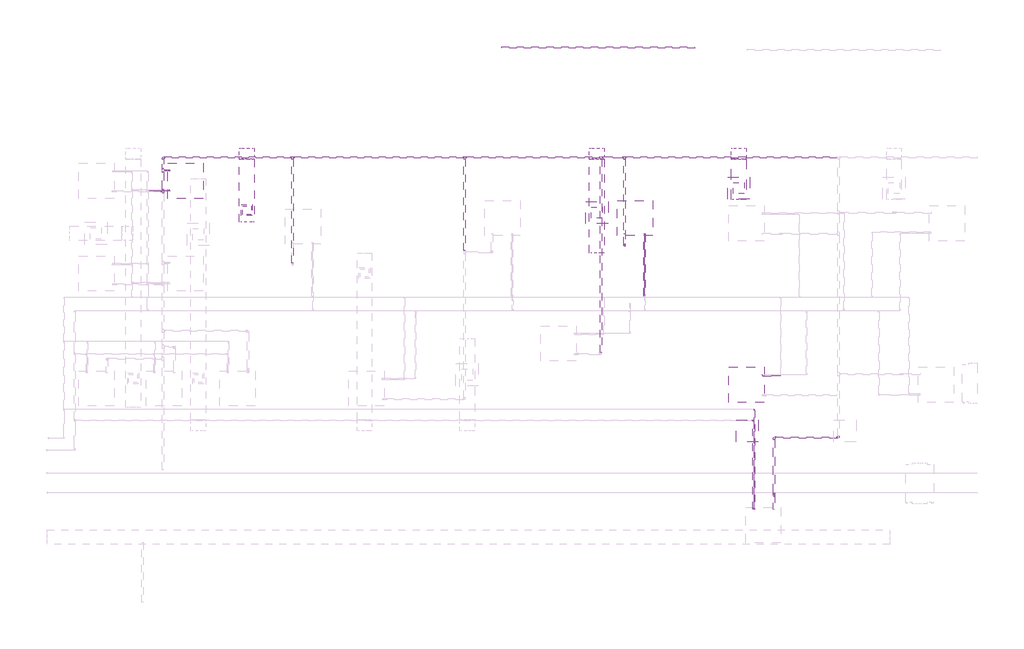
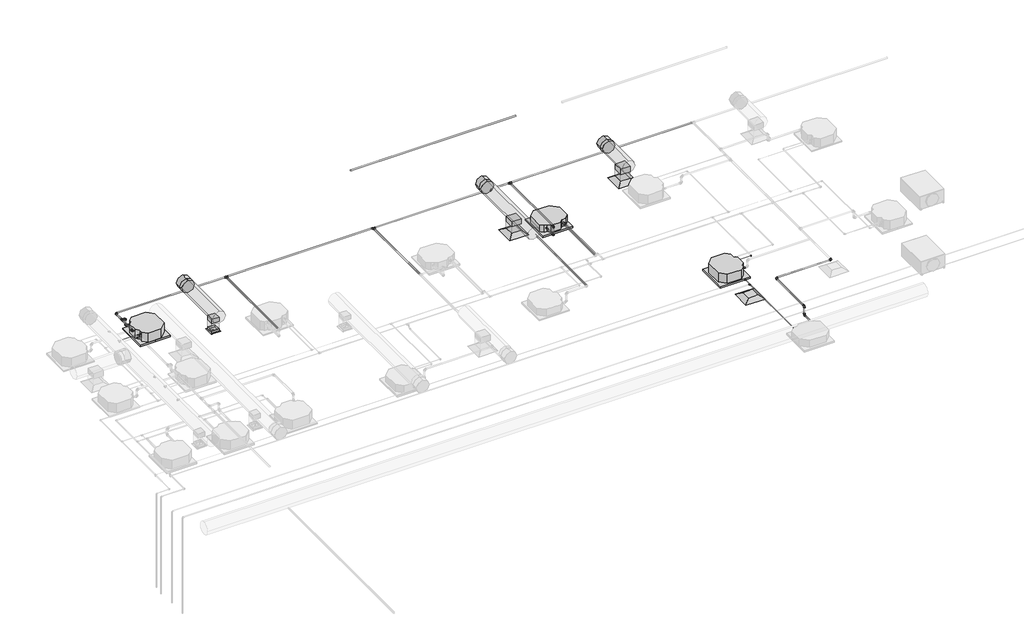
# One storey, part 17 of 22: 27 pipe segments, 26 pipe fittings, 6 duct fittings, 6 duct segments, 4 air terminals, 3 proxies.
"""IFC4 building model written with IfcOpenShell, lengths in millimetres."""

from ifc_helpers import new_model, si_unit, point, frame, frame_2d, origin, place, context, project, spatial, polyline, circle_curve, trimmed, segment, composite_curve, outline, extrude, transform, mapped, element, save
from components import air_terminal_ff221211, sdq3535_a75e83f7, mechanical_equipment_77aa587a, mechanical_equipment_53173f38, duct_fitting_570af4ff, duct_fitting_2eb95573, duct_fitting_95c1ddea, pipe_fitting_144f4440, pipe_fitting_14eb6376, pipe_fitting_6dd44d3f, pipe_fitting_5643bdf7, pipe_fitting_c900cfc2, pipe_fitting_16c020f5, pipe_fitting_501e5992, pipe_fitting_59d1f3e3, pipe_fitting_648138cd, pipe_fitting_58ab9b66

model = new_model("IFC4")

# Units and contexts
model_context = context("Model", 3, world=origin())
ifc_project = project(units=[si_unit("LENGTHUNIT", "METRE", prefix="MILLI")], contexts=[model_context])

# Site, building, storey
site = spatial("IfcSite", under=ifc_project)
building = spatial("IfcBuilding", under=site)
storey = spatial("IfcBuildingStorey", under=building, Name="Nível 2", Elevation=3880.0)

# Air terminals
placement = place(None, origin())
air_terminal_shape = air_terminal_ff221211(model_context)
element("IfcAirTerminal", 1, ObjectType="M_Difusor de retorno : 600 x 600 Face 300 x 300 Conexão", at=placement, inside=storey, context=model_context, shape_type="MappedRepresentation", body=[
    mapped(air_terminal_shape, transform((15810.5271796, 8685.9308948, 6880.0), x_axis=(-1.0, 0.0, 0.0), y_axis=(0.0, -1.0, 0.0), z_axis=(0.0, 0.0, 1.0))),
])
element("IfcAirTerminal", 2, ObjectType="M_Difusor de retorno : 600 x 600 Face 300 x 300 Conexão", at=placement, inside=storey, context=model_context, shape_type="MappedRepresentation", body=[
    mapped(air_terminal_shape, transform((11986.9913685, 8025.0961519, 6880.0), x_axis=(-1.0, 0.0, 0.0), y_axis=(0.0, -1.0, 0.0), z_axis=(0.0, 0.0, 1.0))),
])
element("IfcAirTerminal", 3, ObjectType="M_Difusor de fornecimento : 600 x 600 Face 300 x 300 Conexão", at=placement, inside=storey, context=model_context, shape_type="MappedRepresentation", body=[
    mapped(air_terminal_shape, transform((16036.8087604, 2137.3539749, 6880.0), x_axis=(0.0, 1.0, 0.0), y_axis=(-1.0, 0.0, 0.0), z_axis=(0.0, 0.0, 1.0))),
])
sdq3535_shape = sdq3535_a75e83f7(model_context)
element("IfcAirTerminal", 4, ObjectType="11 - Difusor Quadrado : SDQ3535", at=placement, inside=storey, context=model_context, shape_type="MappedRepresentation", body=[
    mapped(sdq3535_shape, transform((2557.2472646, 8089.1032452, 6880.0), x_axis=(-1.0, 0.0, 0.0), y_axis=(0.0, -1.0, 0.0), z_axis=(0.0, 0.0, 1.0))),
])

# Proxies
mechanical_equipment_shape = mechanical_equipment_77aa587a(model_context)
element("IfcBuildingElementProxy", 5, Name="Midea_VRF_Indoor_4-way Cassette_MI-56(71,80)Q4_DHN1-D (2nd DC) : MI2-71Q4DHN1", ObjectType="Midea_VRF_Indoor_4-way Cassette_MI-56(71,80)Q4_DHN1-D (2nd DC) : MI2-71Q4DHN1", at=placement, inside=storey, context=model_context, shape_type="MappedRepresentation", body=[
    mapped(mechanical_equipment_shape, transform((13012.0385133, 7877.9692139, 6880.0), x_axis=(0.0, -1.0, 0.0), y_axis=(1.0, 0.0, 0.0), z_axis=(0.0, 0.0, 1.0))),
])
mechanical_equipment_2_shape = mechanical_equipment_53173f38(model_context)
element("IfcBuildingElementProxy", 6, Name="Midea_VRF_Indoor_4-way Cassette_MI-90(100,112,140)Q4_DHN1-D (2nd DC) : MI2-140Q4DHN1", ObjectType="Midea_VRF_Indoor_4-way Cassette_MI-90(100,112,140)Q4_DHN1-D (2nd DC) : MI2-140Q4DHN1", at=placement, inside=storey, context=model_context, shape_type="MappedRepresentation", body=[
    mapped(mechanical_equipment_2_shape, transform((16014.3184177, 3382.4868871, 6880.0), x_axis=(1.0, 0.0, 0.0), y_axis=(0.0, 1.0, 0.0), z_axis=(0.0, 0.0, 1.0))),
])
element("IfcBuildingElementProxy", 7, Name="Midea_VRF_Indoor_4-way Cassette_MI-90(100,112,140)Q4_DHN1-D (2nd DC) : MI2-140Q4DHN1", ObjectType="Midea_VRF_Indoor_4-way Cassette_MI-90(100,112,140)Q4_DHN1-D (2nd DC) : MI2-140Q4DHN1", at=placement, inside=storey, context=model_context, shape_type="MappedRepresentation", body=[
    mapped(mechanical_equipment_2_shape, transform((904.1415592, 8880.8653729, 6880.0), x_axis=(-1.0, 0.0, 0.0), y_axis=(0.0, -1.0, 0.0), z_axis=(0.0, 0.0, 1.0))),
])

# Duct fittings
duct_fitting_shape = duct_fitting_570af4ff(model_context)
element("IfcDuctFitting", 8, ObjectType="M_Encaixe de duto retangular : Padrão", at=placement, inside=storey, context=model_context, shape_type="MappedRepresentation", body=[
    mapped(duct_fitting_shape, transform((2557.2472646, 8089.1032452, 7301.0), x_axis=(0.0, 0.0, -1.0), y_axis=(0.0, 1.0, 0.0), z_axis=(1.0, 0.0, 0.0))),
])
duct_fitting_2_shape = duct_fitting_2eb95573(model_context)
element("IfcDuctFitting", 9, ObjectType="M_Encaixe de duto redondo : Padrão", at=placement, inside=storey, context=model_context, shape_type="MappedRepresentation", body=[
    mapped(duct_fitting_2_shape, transform((15810.5271796, 9569.8368648, 7501.0), x_axis=(0.0, -1.0, 0.0), y_axis=(-1.0, 0.0, 0.0), z_axis=(0.0, 0.0, -1.0))),
])
element("IfcDuctFitting", 10, ObjectType="M_Encaixe de duto redondo : Padrão", at=placement, inside=storey, context=model_context, shape_type="MappedRepresentation", body=[
    mapped(duct_fitting_2_shape, transform((11986.9913685, 9569.8368648, 7501.0), x_axis=(0.0, -1.0, 0.0), y_axis=(-1.0, 0.0, 0.0), z_axis=(0.0, 0.0, -1.0))),
])
element("IfcDuctFitting", 11, ObjectType="M_Encaixe de duto redondo : Padrão", at=placement, inside=storey, context=model_context, shape_type="MappedRepresentation", body=[
    mapped(duct_fitting_2_shape, transform((2557.2472646, 9569.8368648, 7501.0), x_axis=(0.0, -1.0, 0.0), y_axis=(-1.0, 0.0, 0.0), z_axis=(0.0, 0.0, -1.0))),
])
duct_fitting_3_shape = duct_fitting_95c1ddea(model_context)
element("IfcDuctFitting", 12, ObjectType="M_Encaixe de duto retangular : Padrão", at=placement, inside=storey, context=model_context, shape_type="MappedRepresentation", body=[
    mapped(duct_fitting_3_shape, transform((15810.5271796, 8685.9308948, 7301.0), x_axis=(0.0, 0.0, -1.0), y_axis=(0.0, 1.0, 0.0), z_axis=(1.0, 0.0, 0.0))),
])
element("IfcDuctFitting", 13, ObjectType="M_Encaixe de duto retangular : Padrão", at=placement, inside=storey, context=model_context, shape_type="MappedRepresentation", body=[
    mapped(duct_fitting_3_shape, transform((11986.9913685, 8025.0961519, 7301.0), x_axis=(0.0, 0.0, -1.0), y_axis=(0.0, 1.0, 0.0), z_axis=(1.0, 0.0, 0.0))),
])

# Duct segments
element("IfcDuctSegment", 14, ObjectType="Torneiras / Raio curto", at=placement, inside=storey, context=model_context, shape_type="SweptSolid", body=[
    extrude(outline(composite_curve([segment(trimmed(circle_curve(frame_2d((7501.0, 15810.5271796)), 200.0), [point((7501.0, 15610.5271796))], [point((7301.0, 15810.5271796))], False, "CARTESIAN"), True, "CONTINUOUS"), segment(trimmed(circle_curve(frame_2d((7501.0, 15810.5271796)), 200.0), [point((7301.0, 15810.5271796))], [point((7501.0, 16010.5271796))], False, "CARTESIAN"), True, "CONTINUOUS"), segment(trimmed(circle_curve(frame_2d((7501.0, 15810.5271796)), 200.0), [point((7501.0, 16010.5271796))], [point((7701.0, 15810.5271796))], False, "CARTESIAN"), True, "CONTINUOUS"), segment(trimmed(circle_curve(frame_2d((7501.0, 15810.5271796)), 200.0), [point((7701.0, 15810.5271796))], [point((7501.0, 15610.5271796))], False, "CARTESIAN"), True, "CONTINUOUS")], self_intersect=False)), frame((0.0, 8369.8368648, 0.0), z_axis=(0.0, 1.0, 0.0), x_axis=(0.0, 0.0, 1.0)), (0.0, 0.0, 1.0), 1098.4),
])
element("IfcDuctSegment", 15, ObjectType="Raios cotovelos / torneiras", at=placement, inside=storey, context=model_context, shape_type="SweptSolid", body=[
    extrude(outline(polyline([(15660.5271796, 8535.9308948), (15660.5271796, 8835.9308948), (15960.5271796, 8835.9308948), (15960.5271796, 8535.9308948), (15660.5271796, 8535.9308948)])), frame((0.0, 0.0, 6981.6), z_axis=(0.0, 0.0, 1.0), x_axis=(1.0, 0.0, 0.0)), (0.0, 0.0, 1.0), 217.8),
])
element("IfcDuctSegment", 16, ObjectType="Torneiras / Raio curto", at=placement, inside=storey, context=model_context, shape_type="SweptSolid", body=[
    extrude(outline(composite_curve([segment(trimmed(circle_curve(frame_2d((7501.0, 11986.9913685)), 200.0), [point((7501.0, 11786.9913685))], [point((7301.0, 11986.9913685))], False, "CARTESIAN"), True, "CONTINUOUS"), segment(trimmed(circle_curve(frame_2d((7501.0, 11986.9913685)), 200.0), [point((7301.0, 11986.9913685))], [point((7501.0, 12186.9913685))], False, "CARTESIAN"), True, "CONTINUOUS"), segment(trimmed(circle_curve(frame_2d((7501.0, 11986.9913685)), 200.0), [point((7501.0, 12186.9913685))], [point((7701.0, 11986.9913685))], False, "CARTESIAN"), True, "CONTINUOUS"), segment(trimmed(circle_curve(frame_2d((7501.0, 11986.9913685)), 200.0), [point((7701.0, 11986.9913685))], [point((7501.0, 11786.9913685))], False, "CARTESIAN"), True, "CONTINUOUS")], self_intersect=False)), frame((0.0, 6937.3539749, 0.0), z_axis=(0.0, 1.0, 0.0), x_axis=(0.0, 0.0, 1.0)), (0.0, 0.0, 1.0), 2530.8828899),
])
element("IfcDuctSegment", 17, ObjectType="Raios cotovelos / torneiras", at=placement, inside=storey, context=model_context, shape_type="SweptSolid", body=[
    extrude(outline(polyline([(11836.9913685, 7875.0961519), (11836.9913685, 8175.0961519), (12136.9913685, 8175.0961519), (12136.9913685, 7875.0961519), (11836.9913685, 7875.0961519)])), frame((0.0, 0.0, 6981.6), z_axis=(0.0, 0.0, 1.0), x_axis=(1.0, 0.0, 0.0)), (0.0, 0.0, 1.0), 217.8),
])
element("IfcDuctSegment", 18, ObjectType="Torneiras / Raio curto", at=placement, inside=storey, context=model_context, shape_type="SweptSolid", body=[
    extrude(outline(composite_curve([segment(trimmed(circle_curve(frame_2d((7501.0, 2557.2472646)), 200.0), [point((7501.0, 2357.2472646))], [point((7301.0, 2557.2472646))], False, "CARTESIAN"), True, "CONTINUOUS"), segment(trimmed(circle_curve(frame_2d((7501.0, 2557.2472646)), 200.0), [point((7301.0, 2557.2472646))], [point((7501.0, 2757.2472646))], False, "CARTESIAN"), True, "CONTINUOUS"), segment(trimmed(circle_curve(frame_2d((7501.0, 2557.2472646)), 200.0), [point((7501.0, 2757.2472646))], [point((7701.0, 2557.2472646))], False, "CARTESIAN"), True, "CONTINUOUS"), segment(trimmed(circle_curve(frame_2d((7501.0, 2557.2472646)), 200.0), [point((7701.0, 2557.2472646))], [point((7501.0, 2357.2472646))], False, "CARTESIAN"), True, "CONTINUOUS")], self_intersect=False)), frame((0.0, 7769.8368648, 0.0), z_axis=(0.0, 1.0, 0.0), x_axis=(0.0, 0.0, 1.0)), (0.0, 0.0, 1.0), 1698.4),
])
element("IfcDuctSegment", 19, ObjectType="Raios cotovelos / torneiras", at=placement, inside=storey, context=model_context, shape_type="SweptSolid", body=[
    extrude(outline(polyline([(2444.7472646, 7976.6032452), (2444.7472646, 8201.6032452), (2669.7472646, 8201.6032452), (2669.7472646, 7976.6032452), (2444.7472646, 7976.6032452)])), frame((0.0, 0.0, 6885.0), z_axis=(0.0, 0.0, 1.0), x_axis=(1.0, 0.0, 0.0)), (0.0, 0.0, 1.0), 314.4),
])

# Pipe fittings
pipe_fitting_shape = pipe_fitting_144f4440(model_context)
element("IfcPipeFitting", 20, ObjectType="Cotovelo - PVC - CW : Padrão", at=placement, inside=storey, context=model_context, shape_type="MappedRepresentation", body=[
    mapped(pipe_fitting_shape, transform((297.3882959, 9508.652743, 7360.6313654), x_axis=(-1.0, 0.0, 0.0), y_axis=(0.0, -1.0, 0.0), z_axis=(0.0, 0.0, 1.0))),
])
element("IfcPipeFitting", 21, ObjectType="Cotovelo - PVC - CW : Padrão", at=placement, inside=storey, context=model_context, shape_type="MappedRepresentation", body=[
    mapped(pipe_fitting_shape, transform((12727.0385133, 7132.9692141, 7360.6313654), x_axis=(0.0, 0.0, 1.0), y_axis=(0.0, 1.0, 0.0), z_axis=(-1.0, 0.0, 0.0))),
])
element("IfcPipeFitting", 22, ObjectType="Cotovelo - PVC - CW : Padrão", at=placement, inside=storey, context=model_context, shape_type="MappedRepresentation", body=[
    mapped(pipe_fitting_shape, transform((408.7418117, 9165.8653729, 7132.3085101), x_axis=(-1.0, 0.0, 0.0), y_axis=(0.0, 0.0, 1.0), z_axis=(0.0, 1.0, 0.0))),
])
element("IfcPipeFitting", 23, ObjectType="Cotovelo - PVC - CW : Padrão", at=placement, inside=storey, context=model_context, shape_type="MappedRepresentation", body=[
    mapped(pipe_fitting_shape, transform((408.7418117, 9165.8653729, 7360.6313654), x_axis=(0.0, 0.0, 1.0), y_axis=(-1.0, 0.0, 0.0), z_axis=(0.0, -1.0, 0.0))),
])
element("IfcPipeFitting", 24, ObjectType="Cotovelo - PVC - CW : Padrão", at=placement, inside=storey, context=model_context, shape_type="MappedRepresentation", body=[
    mapped(pipe_fitting_shape, transform((16756.9773177, 1960.9008151, 7360.6), x_axis=(-1.0, 0.0, 0.0), y_axis=(0.0, -1.0, 0.0), z_axis=(0.0, 0.0, 1.0))),
])
element("IfcPipeFitting", 25, ObjectType="Cotovelo - PVC - CW : Padrão", at=placement, inside=storey, context=model_context, shape_type="MappedRepresentation", body=[
    mapped(pipe_fitting_shape, transform((16756.9773177, 422.7408151, 7360.6), x_axis=(0.0, -1.0, 0.0), y_axis=(0.0, 0.0, -1.0), z_axis=(1.0, 0.0, 0.0))),
])
element("IfcPipeFitting", 26, ObjectType="Cotovelo - PVC - CW : Padrão", at=placement, inside=storey, context=model_context, shape_type="MappedRepresentation", body=[
    mapped(pipe_fitting_shape, transform((18498.0303831, 1960.9008151, 7360.6), x_axis=(1.0, 0.0, 0.0), y_axis=(0.0, 0.9999999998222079, 1.885694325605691e-05), z_axis=(0.0, -1.885694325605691e-05, 0.9999999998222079))),
])
pipe_fitting_2_shape = pipe_fitting_14eb6376(model_context)
element("IfcPipeFitting", 27, ObjectType="Tê de redução - PVC - CW : Padrão", at=placement, inside=storey, context=model_context, shape_type="MappedRepresentation", body=[
    mapped(pipe_fitting_2_shape, transform((12727.0385133, 9508.652743, 7360.6313654), x_axis=(1.0, 0.0, 0.0), y_axis=(0.0, 1.0, 0.0), z_axis=(0.0, 0.0, 1.0))),
])
element("IfcPipeFitting", 28, ObjectType="Tê de redução - PVC - CW : Padrão", at=placement, inside=storey, context=model_context, shape_type="MappedRepresentation", body=[
    mapped(pipe_fitting_2_shape, transform((12100.5253116, 9508.652743, 7360.6313654), x_axis=(1.0, 0.0, 0.0), y_axis=(0.0, 1.0, 0.0), z_axis=(0.0, 0.0, 1.0))),
])
element("IfcPipeFitting", 29, ObjectType="Tê de redução - PVC - CW : Padrão", at=placement, inside=storey, context=model_context, shape_type="MappedRepresentation", body=[
    mapped(pipe_fitting_2_shape, transform((8425.2732992, 9508.652743, 7360.6313654), x_axis=(1.0, 0.0, 0.0), y_axis=(0.0, 1.0, 0.0), z_axis=(0.0, 0.0, 1.0))),
])
element("IfcPipeFitting", 30, ObjectType="Tê de redução - PVC - CW : Padrão", at=placement, inside=storey, context=model_context, shape_type="MappedRepresentation", body=[
    mapped(pipe_fitting_2_shape, transform((3783.0309344, 9508.652743, 7360.6313654), x_axis=(1.0, 0.0, 0.0), y_axis=(0.0, 1.0, 0.0), z_axis=(0.0, 0.0, 1.0))),
])
element("IfcPipeFitting", 31, ObjectType="Tê de redução - PVC - CW : Padrão", at=placement, inside=storey, context=model_context, shape_type="MappedRepresentation", body=[
    mapped(pipe_fitting_2_shape, transform((297.3882959, 9165.8653729, 7360.6313654), x_axis=(0.0, 1.0, 0.0), y_axis=(-1.0, 0.0, 0.0), z_axis=(0.0, 0.0, 1.0))),
])
element("IfcPipeFitting", 32, ObjectType="Tê de redução - PVC - CW : Padrão", at=placement, inside=storey, context=model_context, shape_type="MappedRepresentation", body=[
    mapped(pipe_fitting_2_shape, transform((297.3882959, 8595.8653729, 7360.6313654), x_axis=(0.0, 1.0, 0.0), y_axis=(1.0, 0.0, 0.0), z_axis=(0.0, 0.0, -1.0))),
])
pipe_fitting_3_shape = pipe_fitting_6dd44d3f(model_context)
element("IfcPipeFitting", 33, ObjectType="Cotovelo - PVC - CW : Padrão", at=placement, inside=storey, context=model_context, shape_type="MappedRepresentation", body=[
    mapped(pipe_fitting_3_shape, transform((12727.0385133, 7132.9692141, 7062.3), x_axis=(0.0, -0.9999999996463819, -2.6593916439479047e-05), y_axis=(0.0, -2.6593916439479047e-05, 0.9999999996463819), z_axis=(-1.0, 0.0, 0.0))),
])
pipe_fitting_4_shape = pipe_fitting_5643bdf7(model_context)
element("IfcPipeFitting", 34, ObjectType="Cotovelo - PVC - CW : Padrão", at=placement, inside=storey, context=model_context, shape_type="MappedRepresentation", body=[
    mapped(pipe_fitting_4_shape, transform((16756.9773177, 422.7408151, 7062.2985409), x_axis=(0.0, 0.0, -1.0), y_axis=(0.0, -1.0, 0.0), z_axis=(-1.0, 0.0, 0.0))),
])
pipe_fitting_5_shape = pipe_fitting_c900cfc2(model_context)
element("IfcPipeFitting", 35, ObjectType="Bucha de redução reta - Soldada - CU : Padrão", at=placement, inside=storey, context=model_context, shape_type="MappedRepresentation", body=[
    mapped(pipe_fitting_5_shape, transform((16439.3184177, 3655.6977008, 7132.3085101), x_axis=(1.0, 0.0, 0.0), y_axis=(0.0, 1.0, 0.0), z_axis=(0.0, 0.0, 1.0))),
])
element("IfcPipeFitting", 36, ObjectType="Bucha de redução reta - Soldada - CU : Padrão", at=placement, inside=storey, context=model_context, shape_type="MappedRepresentation", body=[
    mapped(pipe_fitting_5_shape, transform((16198.766504, 20.9008152, 7062.3085101), x_axis=(0.0, 1.0, 0.0), y_axis=(-1.0, 0.0, 0.0), z_axis=(0.0, 0.0, 1.0))),
])
pipe_fitting_6_shape = pipe_fitting_16c020f5(model_context)
element("IfcPipeFitting", 37, ObjectType="Cotovelo - Soldado - CU : Padrão", at=placement, inside=storey, context=model_context, shape_type="MappedRepresentation", body=[
    mapped(pipe_fitting_6_shape, transform((16198.766504, 2420.9008152, 7062.3085101), x_axis=(0.0, 1.0, 0.0), y_axis=(-1.0, 0.0, 0.0), z_axis=(0.0, 0.0, 1.0))),
])
pipe_fitting_7_shape = pipe_fitting_501e5992(model_context)
element("IfcPipeFitting", 38, ObjectType="Bucha de redução reta - Soldada - CU : Padrão", at=placement, inside=storey, context=model_context, shape_type="MappedRepresentation", body=[
    mapped(pipe_fitting_7_shape, transform((13285.2493269, 7440.3103139, 7062.3084506), x_axis=(0.0, 0.9999999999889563, 4.699732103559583e-06), y_axis=(-1.0, 0.0, 0.0), z_axis=(0.0, -4.699732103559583e-06, 0.9999999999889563))),
])
element("IfcPipeFitting", 39, ObjectType="Bucha de redução reta - Soldada - CU : Padrão", at=placement, inside=storey, context=model_context, shape_type="MappedRepresentation", body=[
    mapped(pipe_fitting_7_shape, transform((466.4826592, 8607.6545593, 7132.3083788), x_axis=(0.9999999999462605, 0.0, 1.0367210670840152e-05), y_axis=(0.0, 1.0000000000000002, 0.0), z_axis=(-1.0367210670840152e-05, 0.0, 0.9999999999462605))),
])
pipe_fitting_8_shape = pipe_fitting_59d1f3e3(model_context)
element("IfcPipeFitting", 40, ObjectType="Bucha de redução reta - Soldada - CU : Padrão", at=placement, inside=storey, context=model_context, shape_type="MappedRepresentation", body=[
    mapped(pipe_fitting_8_shape, transform((16439.3184177, 3621.8952589, 7026.8446487), x_axis=(1.0, 0.0, 0.0), y_axis=(0.0, 1.0, 0.0), z_axis=(0.0, 0.0, 1.0))),
])
element("IfcPipeFitting", 41, ObjectType="Bucha de redução reta - Soldada - CU : Padrão", at=placement, inside=storey, context=model_context, shape_type="MappedRepresentation", body=[
    mapped(pipe_fitting_8_shape, transform((16232.5689458, 20.9008152, 7026.8446487), x_axis=(0.0, 1.0, 0.0), y_axis=(-1.0, 0.0, 0.0), z_axis=(0.0, 0.0, 1.0))),
])
pipe_fitting_9_shape = pipe_fitting_648138cd(model_context)
element("IfcPipeFitting", 42, ObjectType="Cotovelo - Soldado - CU : Padrão", at=placement, inside=storey, context=model_context, shape_type="MappedRepresentation", body=[
    mapped(pipe_fitting_9_shape, transform((16939.3184177, 3621.8952589, 7026.8446487), x_axis=(1.0, 0.0, 0.0), y_axis=(0.0, 1.0, 0.0), z_axis=(0.0, 0.0, 1.0))),
])
element("IfcPipeFitting", 43, ObjectType="Cotovelo - Soldado - CU : Padrão", at=placement, inside=storey, context=model_context, shape_type="MappedRepresentation", body=[
    mapped(pipe_fitting_9_shape, transform((16232.5689458, 2720.9008152, 7026.8446487), x_axis=(0.0, 1.0, 0.0), y_axis=(-1.0, 0.0, 0.0), z_axis=(0.0, 0.0, 1.0))),
])
pipe_fitting_10_shape = pipe_fitting_58ab9b66(model_context)
element("IfcPipeFitting", 44, ObjectType="Bucha de redução reta - Soldada - CU : Padrão", at=placement, inside=storey, context=model_context, shape_type="MappedRepresentation", body=[
    mapped(pipe_fitting_10_shape, transform((13251.4468851, 7443.2948139, 7026.8446487), x_axis=(0.0, 1.0, 0.0), y_axis=(-1.0, 0.0, 0.0), z_axis=(0.0, 0.0, 1.0))),
])
element("IfcPipeFitting", 45, ObjectType="Bucha de redução reta - Soldada - CU : Padrão", at=placement, inside=storey, context=model_context, shape_type="MappedRepresentation", body=[
    mapped(pipe_fitting_10_shape, transform((469.4671592, 8641.4570011, 7026.8446487), x_axis=(1.0, 0.0, 0.0), y_axis=(0.0, 1.0, 0.0), z_axis=(0.0, 0.0, 1.0))),
])

# Pipe segments
element("IfcPipeSegment", 46, ObjectType="Tubos de cobre HVAC", at=placement, inside=storey, context=model_context, shape_type="SweptSolid", body=[
    extrude(outline(composite_curve([segment(trimmed(circle_curve(frame_2d((0.0, 7.935)), 7.935), [point((0.0, 15.87))], [point((7.935, 7.935))], False, "CARTESIAN"), True, "CONTINUOUS"), segment(trimmed(circle_curve(frame_2d((0.0, 7.935)), 7.935), [point((7.935, 7.935))], [point((0.0, 0.0))], False, "CARTESIAN"), True, "CONTINUOUS"), segment(trimmed(circle_curve(frame_2d((0.0, 7.935)), 7.935), [point((0.0, 0.0))], [point((-7.935, 7.935))], False, "CARTESIAN"), True, "CONTINUOUS"), segment(trimmed(circle_curve(frame_2d((0.0, 7.935)), 7.935), [point((-7.935, 7.935))], [point((0.0, 15.87))], False, "CARTESIAN"), True, "CONTINUOUS")], self_intersect=False)), frame((13277.3143269, 5800.6751012, 7062.3007447), z_axis=(0.0, 0.9999999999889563, 4.699731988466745e-06), x_axis=(0.0, -4.699731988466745e-06, 0.9999999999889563)), (0.0, 0.0, 1.0), 1639.6352128),
])
element("IfcPipeSegment", 47, ObjectType="Tubos de cobre HVAC", at=placement, inside=storey, context=model_context, shape_type="SweptSolid", body=[
    extrude(outline(composite_curve([segment(trimmed(circle_curve(frame_2d((0.0, 7.935)), 7.935), [point((-7.935, 7.935))], [point((0.0, 15.87))], False, "CARTESIAN"), True, "CONTINUOUS"), segment(trimmed(circle_curve(frame_2d((0.0, 7.935)), 7.935), [point((0.0, 15.87))], [point((7.935, 7.935))], False, "CARTESIAN"), True, "CONTINUOUS"), segment(trimmed(circle_curve(frame_2d((0.0, 7.935)), 7.935), [point((7.935, 7.935))], [point((0.0, 0.0))], False, "CARTESIAN"), True, "CONTINUOUS"), segment(trimmed(circle_curve(frame_2d((0.0, 7.935)), 7.935), [point((0.0, 0.0))], [point((-7.935, 7.935))], False, "CARTESIAN"), True, "CONTINUOUS")], self_intersect=False)), frame((-72.0777311, 8607.6545593, 7124.3654386), z_axis=(0.9999999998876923, 0.0, 1.4987175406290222e-05), x_axis=(0.0, 1.0, 0.0)), (0.0, 0.0, 1.0), 538.5605093),
])
element("IfcPipeSegment", 48, ObjectType="Tubos de cobre HVAC", at=placement, inside=storey, context=model_context, shape_type="SweptSolid", body=[
    extrude(outline(composite_curve([segment(trimmed(circle_curve(frame_2d((3621.8952589, 7026.8446487)), 4.76), [point((3617.1352589, 7026.8446487))], [point((3621.8952589, 7031.6046487))], False, "CARTESIAN"), True, "CONTINUOUS"), segment(trimmed(circle_curve(frame_2d((3621.8952589, 7026.8446487)), 4.76), [point((3621.8952589, 7031.6046487))], [point((3626.6552589, 7026.8446487))], False, "CARTESIAN"), True, "CONTINUOUS"), segment(trimmed(circle_curve(frame_2d((3621.8952589, 7026.8446487)), 4.76), [point((3626.6552589, 7026.8446487))], [point((3621.8952589, 7022.0846487))], False, "CARTESIAN"), True, "CONTINUOUS"), segment(trimmed(circle_curve(frame_2d((3621.8952589, 7026.8446487)), 4.76), [point((3621.8952589, 7022.0846487))], [point((3617.1352589, 7026.8446487))], False, "CARTESIAN"), True, "CONTINUOUS")], self_intersect=False)), frame((16448.9928177, 0.0, 0.0), z_axis=(1.0, 0.0, 0.0), x_axis=(0.0, 1.0, 0.0)), (0.0, 0.0, 1.0), 466.3),
])
element("IfcPipeSegment", 49, ObjectType="Tubos de cobre HVAC", at=placement, inside=storey, context=model_context, shape_type="SweptSolid", body=[
    extrude(outline(composite_curve([segment(trimmed(circle_curve(frame_2d((7026.8446487, 13251.4468851)), 4.76), [point((7026.8446487, 13256.2068851))], [point((7031.6046487, 13251.4468851))], False, "CARTESIAN"), True, "CONTINUOUS"), segment(trimmed(circle_curve(frame_2d((7026.8446487, 13251.4468851)), 4.76), [point((7031.6046487, 13251.4468851))], [point((7026.8446487, 13246.6868851))], False, "CARTESIAN"), True, "CONTINUOUS"), segment(trimmed(circle_curve(frame_2d((7026.8446487, 13251.4468851)), 4.76), [point((7026.8446487, 13246.6868851))], [point((7022.0846487, 13251.4468851))], False, "CARTESIAN"), True, "CONTINUOUS"), segment(trimmed(circle_curve(frame_2d((7026.8446487, 13251.4468851)), 4.76), [point((7022.0846487, 13251.4468851))], [point((7026.8446487, 13256.2068851))], False, "CARTESIAN"), True, "CONTINUOUS")], self_intersect=False)), frame((0.0, 5777.7699153, 0.0), z_axis=(0.0, 1.0, 0.0), x_axis=(0.0, 0.0, 1.0)), (0.0, 0.0, 1.0), 1665.5248987),
])
element("IfcPipeSegment", 50, ObjectType="Plástico", at=placement, inside=storey, context=model_context, shape_type="SweptSolid", body=[
    extrude(outline(composite_curve([segment(trimmed(circle_curve(frame_2d((0.0, -20.0)), 20.0), [point((0.0, 0.0))], [point((20.0, -20.0))], False, "CARTESIAN"), True, "CONTINUOUS"), segment(trimmed(circle_curve(frame_2d((0.0, -20.0)), 20.0), [point((20.0, -20.0))], [point((0.0, -40.0))], False, "CARTESIAN"), True, "CONTINUOUS"), segment(trimmed(circle_curve(frame_2d((0.0, -20.0)), 20.0), [point((0.0, -40.0))], [point((-20.0, -20.0))], False, "CARTESIAN"), True, "CONTINUOUS"), segment(trimmed(circle_curve(frame_2d((0.0, -20.0)), 20.0), [point((-20.0, -20.0))], [point((0.0, 0.0))], False, "CARTESIAN"), True, "CONTINUOUS")], self_intersect=False)), frame((12707.0385133, 7177.9698257, 7062.3011967), z_axis=(0.0, 0.9999999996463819, 2.659391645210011e-05), x_axis=(0.0, 2.659391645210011e-05, -0.9999999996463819)), (0.0, 0.0, 1.0), 274.9993883),
])
element("IfcPipeSegment", 51, ObjectType="Plástico", at=placement, inside=storey, context=model_context, shape_type="SweptSolid", body=[
    extrude(outline(composite_curve([segment(trimmed(circle_curve(frame_2d((12727.0385133, 7132.9692141)), 20.0), [point((12747.0385133, 7132.9692141))], [point((12727.0385133, 7112.9692141))], False, "CARTESIAN"), True, "CONTINUOUS"), segment(trimmed(circle_curve(frame_2d((12727.0385133, 7132.9692141)), 20.0), [point((12727.0385133, 7112.9692141))], [point((12707.0385133, 7132.9692141))], False, "CARTESIAN"), True, "CONTINUOUS"), segment(trimmed(circle_curve(frame_2d((12727.0385133, 7132.9692141)), 20.0), [point((12707.0385133, 7132.9692141))], [point((12727.0385133, 7152.9692141))], False, "CARTESIAN"), True, "CONTINUOUS"), segment(trimmed(circle_curve(frame_2d((12727.0385133, 7132.9692141)), 20.0), [point((12727.0385133, 7152.9692141))], [point((12747.0385133, 7132.9692141))], False, "CARTESIAN"), True, "CONTINUOUS")], self_intersect=False)), frame((0.0, 0.0, 7107.3006117), z_axis=(0.0, 0.0, 1.0), x_axis=(1.0, 0.0, 0.0)), (0.0, 0.0, 1.0), 208.3307538),
])
element("IfcPipeSegment", 52, ObjectType="Plástico", at=placement, inside=storey, context=model_context, shape_type="SweptSolid", body=[
    extrude(outline(composite_curve([segment(trimmed(circle_curve(frame_2d((7360.6313654, 12727.0385133)), 20.0), [point((7360.6313654, 12707.0385133))], [point((7340.6313654, 12727.0385133))], False, "CARTESIAN"), True, "CONTINUOUS"), segment(trimmed(circle_curve(frame_2d((7360.6313654, 12727.0385133)), 20.0), [point((7340.6313654, 12727.0385133))], [point((7360.6313654, 12747.0385133))], False, "CARTESIAN"), True, "CONTINUOUS"), segment(trimmed(circle_curve(frame_2d((7360.6313654, 12727.0385133)), 20.0), [point((7360.6313654, 12747.0385133))], [point((7380.6313654, 12727.0385133))], False, "CARTESIAN"), True, "CONTINUOUS"), segment(trimmed(circle_curve(frame_2d((7360.6313654, 12727.0385133)), 20.0), [point((7380.6313654, 12727.0385133))], [point((7360.6313654, 12707.0385133))], False, "CARTESIAN"), True, "CONTINUOUS")], self_intersect=False)), frame((0.0, 7177.9692141, 0.0), z_axis=(0.0, 1.0, 0.0), x_axis=(0.0, 0.0, 1.0)), (0.0, 0.0, 1.0), 2286.6835289),
])
element("IfcPipeSegment", 53, ObjectType="Plástico", at=placement, inside=storey, context=model_context, shape_type="SweptSolid", body=[
    extrude(outline(composite_curve([segment(trimmed(circle_curve(frame_2d((9508.652743, 7360.6313654)), 20.0), [point((9528.652743, 7360.6313654))], [point((9508.652743, 7340.6313654))], False, "CARTESIAN"), True, "CONTINUOUS"), segment(trimmed(circle_curve(frame_2d((9508.652743, 7360.6313654)), 20.0), [point((9508.652743, 7340.6313654))], [point((9488.652743, 7360.6313654))], False, "CARTESIAN"), True, "CONTINUOUS"), segment(trimmed(circle_curve(frame_2d((9508.652743, 7360.6313654)), 20.0), [point((9488.652743, 7360.6313654))], [point((9508.652743, 7380.6313654))], False, "CARTESIAN"), True, "CONTINUOUS"), segment(trimmed(circle_curve(frame_2d((9508.652743, 7360.6313654)), 20.0), [point((9508.652743, 7380.6313654))], [point((9528.652743, 7360.6313654))], False, "CARTESIAN"), True, "CONTINUOUS")], self_intersect=False)), frame((12770.2885133, 0.0, 0.0), z_axis=(1.0, 0.0, 0.0), x_axis=(0.0, 1.0, 0.0)), (0.0, 0.0, 1.0), 5684.4918699),
])
element("IfcPipeSegment", 54, ObjectType="Plástico", at=placement, inside=storey, context=model_context, shape_type="SweptSolid", body=[
    extrude(outline(composite_curve([segment(trimmed(circle_curve(frame_2d((7360.6313654, 12100.5253116)), 20.0), [point((7360.6313654, 12080.5253116))], [point((7340.6313654, 12100.5253116))], False, "CARTESIAN"), True, "CONTINUOUS"), segment(trimmed(circle_curve(frame_2d((7360.6313654, 12100.5253116)), 20.0), [point((7340.6313654, 12100.5253116))], [point((7360.6313654, 12120.5253116))], False, "CARTESIAN"), True, "CONTINUOUS"), segment(trimmed(circle_curve(frame_2d((7360.6313654, 12100.5253116)), 20.0), [point((7360.6313654, 12120.5253116))], [point((7380.6313654, 12100.5253116))], False, "CARTESIAN"), True, "CONTINUOUS"), segment(trimmed(circle_curve(frame_2d((7360.6313654, 12100.5253116)), 20.0), [point((7380.6313654, 12100.5253116))], [point((7360.6313654, 12080.5253116))], False, "CARTESIAN"), True, "CONTINUOUS")], self_intersect=False)), frame((0.0, 4257.8510207, 0.0), z_axis=(0.0, 1.0, 0.0), x_axis=(0.0, 0.0, 1.0)), (0.0, 0.0, 1.0), 5206.8017223),
])
element("IfcPipeSegment", 55, ObjectType="Plástico", at=placement, inside=storey, context=model_context, shape_type="SweptSolid", body=[
    extrude(outline(composite_curve([segment(trimmed(circle_curve(frame_2d((9508.652743, 7360.6313654)), 20.0), [point((9528.652743, 7360.6313654))], [point((9508.652743, 7340.6313654))], False, "CARTESIAN"), True, "CONTINUOUS"), segment(trimmed(circle_curve(frame_2d((9508.652743, 7360.6313654)), 20.0), [point((9508.652743, 7340.6313654))], [point((9488.652743, 7360.6313654))], False, "CARTESIAN"), True, "CONTINUOUS"), segment(trimmed(circle_curve(frame_2d((9508.652743, 7360.6313654)), 20.0), [point((9488.652743, 7360.6313654))], [point((9508.652743, 7380.6313654))], False, "CARTESIAN"), True, "CONTINUOUS"), segment(trimmed(circle_curve(frame_2d((9508.652743, 7360.6313654)), 20.0), [point((9508.652743, 7380.6313654))], [point((9528.652743, 7360.6313654))], False, "CARTESIAN"), True, "CONTINUOUS")], self_intersect=False)), frame((342.3882959, 0.0, 0.0), z_axis=(1.0, 0.0, 0.0), x_axis=(0.0, 1.0, 0.0)), (0.0, 0.0, 1.0), 3397.3926384),
])
element("IfcPipeSegment", 56, ObjectType="Plástico", at=placement, inside=storey, context=model_context, shape_type="SweptSolid", body=[
    extrude(outline(composite_curve([segment(trimmed(circle_curve(frame_2d((9508.652743, 7360.6313654)), 20.0), [point((9528.652743, 7360.6313654))], [point((9508.652743, 7340.6313654))], False, "CARTESIAN"), True, "CONTINUOUS"), segment(trimmed(circle_curve(frame_2d((9508.652743, 7360.6313654)), 20.0), [point((9508.652743, 7340.6313654))], [point((9488.652743, 7360.6313654))], False, "CARTESIAN"), True, "CONTINUOUS"), segment(trimmed(circle_curve(frame_2d((9508.652743, 7360.6313654)), 20.0), [point((9488.652743, 7360.6313654))], [point((9508.652743, 7380.6313654))], False, "CARTESIAN"), True, "CONTINUOUS"), segment(trimmed(circle_curve(frame_2d((9508.652743, 7360.6313654)), 20.0), [point((9508.652743, 7380.6313654))], [point((9528.652743, 7360.6313654))], False, "CARTESIAN"), True, "CONTINUOUS")], self_intersect=False)), frame((12143.7753116, 0.0, 0.0), z_axis=(1.0, 0.0, 0.0), x_axis=(0.0, 1.0, 0.0)), (0.0, 0.0, 1.0), 540.0132016),
])
element("IfcPipeSegment", 57, ObjectType="Plástico", at=placement, inside=storey, context=model_context, shape_type="SweptSolid", body=[
    extrude(outline(composite_curve([segment(trimmed(circle_curve(frame_2d((9508.652743, 7360.6313654)), 20.0), [point((9528.652743, 7360.6313654))], [point((9508.652743, 7340.6313654))], False, "CARTESIAN"), True, "CONTINUOUS"), segment(trimmed(circle_curve(frame_2d((9508.652743, 7360.6313654)), 20.0), [point((9508.652743, 7340.6313654))], [point((9488.652743, 7360.6313654))], False, "CARTESIAN"), True, "CONTINUOUS"), segment(trimmed(circle_curve(frame_2d((9508.652743, 7360.6313654)), 20.0), [point((9488.652743, 7360.6313654))], [point((9508.652743, 7380.6313654))], False, "CARTESIAN"), True, "CONTINUOUS"), segment(trimmed(circle_curve(frame_2d((9508.652743, 7360.6313654)), 20.0), [point((9508.652743, 7380.6313654))], [point((9528.652743, 7360.6313654))], False, "CARTESIAN"), True, "CONTINUOUS")], self_intersect=False)), frame((8468.5232992, 0.0, 0.0), z_axis=(1.0, 0.0, 0.0), x_axis=(0.0, 1.0, 0.0)), (0.0, 0.0, 1.0), 3588.7520125),
])
element("IfcPipeSegment", 58, ObjectType="Plástico", at=placement, inside=storey, context=model_context, shape_type="SweptSolid", body=[
    extrude(outline(composite_curve([segment(trimmed(circle_curve(frame_2d((7360.6313654, 8425.2732992)), 20.0), [point((7360.6313654, 8405.2732992))], [point((7340.6313654, 8425.2732992))], False, "CARTESIAN"), True, "CONTINUOUS"), segment(trimmed(circle_curve(frame_2d((7360.6313654, 8425.2732992)), 20.0), [point((7340.6313654, 8425.2732992))], [point((7360.6313654, 8445.2732992))], False, "CARTESIAN"), True, "CONTINUOUS"), segment(trimmed(circle_curve(frame_2d((7360.6313654, 8425.2732992)), 20.0), [point((7360.6313654, 8445.2732992))], [point((7380.6313654, 8425.2732992))], False, "CARTESIAN"), True, "CONTINUOUS"), segment(trimmed(circle_curve(frame_2d((7360.6313654, 8425.2732992)), 20.0), [point((7380.6313654, 8425.2732992))], [point((7360.6313654, 8405.2732992))], False, "CARTESIAN"), True, "CONTINUOUS")], self_intersect=False)), frame((0.0, 6996.219214, 0.0), z_axis=(0.0, 1.0, 0.0), x_axis=(0.0, 0.0, 1.0)), (0.0, 0.0, 1.0), 2468.433529),
])
element("IfcPipeSegment", 59, ObjectType="Plástico", at=placement, inside=storey, context=model_context, shape_type="SweptSolid", body=[
    extrude(outline(composite_curve([segment(trimmed(circle_curve(frame_2d((7360.6313654, 3783.0309344)), 20.0), [point((7360.6313654, 3763.0309344))], [point((7340.6313654, 3783.0309344))], False, "CARTESIAN"), True, "CONTINUOUS"), segment(trimmed(circle_curve(frame_2d((7360.6313654, 3783.0309344)), 20.0), [point((7340.6313654, 3783.0309344))], [point((7360.6313654, 3803.0309344))], False, "CARTESIAN"), True, "CONTINUOUS"), segment(trimmed(circle_curve(frame_2d((7360.6313654, 3783.0309344)), 20.0), [point((7360.6313654, 3803.0309344))], [point((7380.6313654, 3783.0309344))], False, "CARTESIAN"), True, "CONTINUOUS"), segment(trimmed(circle_curve(frame_2d((7360.6313654, 3783.0309344)), 20.0), [point((7380.6313654, 3783.0309344))], [point((7360.6313654, 3763.0309344))], False, "CARTESIAN"), True, "CONTINUOUS")], self_intersect=False)), frame((0.0, 6667.3186987, 0.0), z_axis=(0.0, 1.0, 0.0), x_axis=(0.0, 0.0, 1.0)), (0.0, 0.0, 1.0), 2797.3340443),
])
element("IfcPipeSegment", 60, ObjectType="Plástico", at=placement, inside=storey, context=model_context, shape_type="SweptSolid", body=[
    extrude(outline(composite_curve([segment(trimmed(circle_curve(frame_2d((9508.652743, 7360.6313654)), 20.0), [point((9528.652743, 7360.6313654))], [point((9508.652743, 7340.6313654))], False, "CARTESIAN"), True, "CONTINUOUS"), segment(trimmed(circle_curve(frame_2d((9508.652743, 7360.6313654)), 20.0), [point((9508.652743, 7340.6313654))], [point((9488.652743, 7360.6313654))], False, "CARTESIAN"), True, "CONTINUOUS"), segment(trimmed(circle_curve(frame_2d((9508.652743, 7360.6313654)), 20.0), [point((9488.652743, 7360.6313654))], [point((9508.652743, 7380.6313654))], False, "CARTESIAN"), True, "CONTINUOUS"), segment(trimmed(circle_curve(frame_2d((9508.652743, 7360.6313654)), 20.0), [point((9508.652743, 7380.6313654))], [point((9528.652743, 7360.6313654))], False, "CARTESIAN"), True, "CONTINUOUS")], self_intersect=False)), frame((3826.2809344, 0.0, 0.0), z_axis=(1.0, 0.0, 0.0), x_axis=(0.0, 1.0, 0.0)), (0.0, 0.0, 1.0), 4555.7423648),
])
element("IfcPipeSegment", 61, ObjectType="Plástico", at=placement, inside=storey, context=model_context, shape_type="SweptSolid", body=[
    extrude(outline(composite_curve([segment(trimmed(circle_curve(frame_2d((9165.8653729, 7360.6313654)), 20.0), [point((9185.8653729, 7360.6313654))], [point((9165.8653729, 7340.6313654))], False, "CARTESIAN"), True, "CONTINUOUS"), segment(trimmed(circle_curve(frame_2d((9165.8653729, 7360.6313654)), 20.0), [point((9165.8653729, 7340.6313654))], [point((9145.8653729, 7360.6313654))], False, "CARTESIAN"), True, "CONTINUOUS"), segment(trimmed(circle_curve(frame_2d((9165.8653729, 7360.6313654)), 20.0), [point((9145.8653729, 7360.6313654))], [point((9165.8653729, 7380.6313654))], False, "CARTESIAN"), True, "CONTINUOUS"), segment(trimmed(circle_curve(frame_2d((9165.8653729, 7360.6313654)), 20.0), [point((9165.8653729, 7380.6313654))], [point((9185.8653729, 7360.6313654))], False, "CARTESIAN"), True, "CONTINUOUS")], self_intersect=False)), frame((341.3882959, 0.0, 0.0), z_axis=(1.0, 0.0, 0.0), x_axis=(0.0, 1.0, 0.0)), (0.0, 0.0, 1.0), 22.3535158),
])
element("IfcPipeSegment", 62, ObjectType="Plástico", at=placement, inside=storey, context=model_context, shape_type="SweptSolid", body=[
    extrude(outline(composite_curve([segment(trimmed(circle_curve(frame_2d((9165.8653729, 7132.3085101)), 20.0), [point((9185.8653729, 7132.3085101))], [point((9165.8653729, 7112.3085101))], False, "CARTESIAN"), True, "CONTINUOUS"), segment(trimmed(circle_curve(frame_2d((9165.8653729, 7132.3085101)), 20.0), [point((9165.8653729, 7112.3085101))], [point((9145.8653729, 7132.3085101))], False, "CARTESIAN"), True, "CONTINUOUS"), segment(trimmed(circle_curve(frame_2d((9165.8653729, 7132.3085101)), 20.0), [point((9145.8653729, 7132.3085101))], [point((9165.8653729, 7152.3085101))], False, "CARTESIAN"), True, "CONTINUOUS"), segment(trimmed(circle_curve(frame_2d((9165.8653729, 7132.3085101)), 20.0), [point((9165.8653729, 7152.3085101))], [point((9185.8653729, 7132.3085101))], False, "CARTESIAN"), True, "CONTINUOUS")], self_intersect=False)), frame((453.7418117, 0.0, 0.0), z_axis=(1.0, 0.0, 0.0), x_axis=(0.0, 1.0, 0.0)), (0.0, 0.0, 1.0), 25.3997474),
])
element("IfcPipeSegment", 63, ObjectType="Plástico", at=placement, inside=storey, context=model_context, shape_type="SweptSolid", body=[
    extrude(outline(composite_curve([segment(trimmed(circle_curve(frame_2d((408.7418117, 9165.8653729)), 20.0), [point((388.7418117, 9165.8653729))], [point((408.7418117, 9185.8653729))], False, "CARTESIAN"), True, "CONTINUOUS"), segment(trimmed(circle_curve(frame_2d((408.7418117, 9165.8653729)), 20.0), [point((408.7418117, 9185.8653729))], [point((428.7418117, 9165.8653729))], False, "CARTESIAN"), True, "CONTINUOUS"), segment(trimmed(circle_curve(frame_2d((408.7418117, 9165.8653729)), 20.0), [point((428.7418117, 9165.8653729))], [point((408.7418117, 9145.8653729))], False, "CARTESIAN"), True, "CONTINUOUS"), segment(trimmed(circle_curve(frame_2d((408.7418117, 9165.8653729)), 20.0), [point((408.7418117, 9145.8653729))], [point((388.7418117, 9165.8653729))], False, "CARTESIAN"), True, "CONTINUOUS")], self_intersect=False)), frame((0.0, 0.0, 7177.3085101), z_axis=(0.0, 0.0, 1.0), x_axis=(1.0, 0.0, 0.0)), (0.0, 0.0, 1.0), 138.3228554),
])
element("IfcPipeSegment", 64, ObjectType="Plástico", at=placement, inside=storey, context=model_context, shape_type="SweptSolid", body=[
    extrude(outline(composite_curve([segment(trimmed(circle_curve(frame_2d((7360.6313654, 297.3882959)), 20.0), [point((7360.6313654, 277.3882959))], [point((7340.6313654, 297.3882959))], False, "CARTESIAN"), True, "CONTINUOUS"), segment(trimmed(circle_curve(frame_2d((7360.6313654, 297.3882959)), 20.0), [point((7340.6313654, 297.3882959))], [point((7360.6313654, 317.3882959))], False, "CARTESIAN"), True, "CONTINUOUS"), segment(trimmed(circle_curve(frame_2d((7360.6313654, 297.3882959)), 20.0), [point((7360.6313654, 317.3882959))], [point((7380.6313654, 297.3882959))], False, "CARTESIAN"), True, "CONTINUOUS"), segment(trimmed(circle_curve(frame_2d((7360.6313654, 297.3882959)), 20.0), [point((7380.6313654, 297.3882959))], [point((7360.6313654, 277.3882959))], False, "CARTESIAN"), True, "CONTINUOUS")], self_intersect=False)), frame((0.0, 9209.1153729, 0.0), z_axis=(0.0, 1.0, 0.0), x_axis=(0.0, 0.0, 1.0)), (0.0, 0.0, 1.0), 254.5373701),
])
element("IfcPipeSegment", 65, ObjectType="Plástico", at=placement, inside=storey, context=model_context, shape_type="SweptSolid", body=[
    extrude(outline(composite_curve([segment(trimmed(circle_curve(frame_2d((7360.6313654, 297.3882959)), 20.0), [point((7360.6313654, 277.3882959))], [point((7340.6313654, 297.3882959))], False, "CARTESIAN"), True, "CONTINUOUS"), segment(trimmed(circle_curve(frame_2d((7360.6313654, 297.3882959)), 20.0), [point((7340.6313654, 297.3882959))], [point((7360.6313654, 317.3882959))], False, "CARTESIAN"), True, "CONTINUOUS"), segment(trimmed(circle_curve(frame_2d((7360.6313654, 297.3882959)), 20.0), [point((7360.6313654, 317.3882959))], [point((7380.6313654, 297.3882959))], False, "CARTESIAN"), True, "CONTINUOUS"), segment(trimmed(circle_curve(frame_2d((7360.6313654, 297.3882959)), 20.0), [point((7380.6313654, 297.3882959))], [point((7360.6313654, 277.3882959))], False, "CARTESIAN"), True, "CONTINUOUS")], self_intersect=False)), frame((0.0, 8639.1153729, 0.0), z_axis=(0.0, 1.0, 0.0), x_axis=(0.0, 0.0, 1.0)), (0.0, 0.0, 1.0), 483.5),
])
element("IfcPipeSegment", 66, ObjectType="Tubos de cobre HVAC", at=placement, inside=storey, context=model_context, shape_type="SweptSolid", body=[
    extrude(outline(composite_curve([segment(trimmed(circle_curve(frame_2d((12481.0952345, 7132.3)), 22.25), [point((12458.8452345, 7132.3))], [point((12481.0952345, 7154.55))], False, "CARTESIAN"), True, "CONTINUOUS"), segment(trimmed(circle_curve(frame_2d((12481.0952345, 7132.3)), 22.25), [point((12481.0952345, 7154.55))], [point((12503.3452345, 7132.3))], False, "CARTESIAN"), True, "CONTINUOUS"), segment(trimmed(circle_curve(frame_2d((12481.0952345, 7132.3)), 22.25), [point((12503.3452345, 7132.3))], [point((12481.0952345, 7110.05))], False, "CARTESIAN"), True, "CONTINUOUS"), segment(trimmed(circle_curve(frame_2d((12481.0952345, 7132.3)), 22.25), [point((12481.0952345, 7110.05))], [point((12458.8452345, 7132.3))], False, "CARTESIAN"), True, "CONTINUOUS")], self_intersect=False)), frame((9422.3982634, 0.0, 0.0), z_axis=(1.0, 0.0, 0.0), x_axis=(0.0, 1.0, 0.0)), (0.0, 0.0, 1.0), 5200.0),
])
element("IfcPipeSegment", 67, ObjectType="Tubos de cobre HVAC", at=placement, inside=storey, context=model_context, shape_type="SweptSolid", body=[
    extrude(outline(composite_curve([segment(trimmed(circle_curve(frame_2d((7062.3085101, 16198.766504)), 7.935), [point((7062.3085101, 16206.701504))], [point((7070.2435101, 16198.766504))], False, "CARTESIAN"), True, "CONTINUOUS"), segment(trimmed(circle_curve(frame_2d((7062.3085101, 16198.766504)), 7.935), [point((7070.2435101, 16198.766504))], [point((7062.3085101, 16190.831504))], False, "CARTESIAN"), True, "CONTINUOUS"), segment(trimmed(circle_curve(frame_2d((7062.3085101, 16198.766504)), 7.935), [point((7062.3085101, 16190.831504))], [point((7054.3735101, 16198.766504))], False, "CARTESIAN"), True, "CONTINUOUS"), segment(trimmed(circle_curve(frame_2d((7062.3085101, 16198.766504)), 7.935), [point((7054.3735101, 16198.766504))], [point((7062.3085101, 16206.701504))], False, "CARTESIAN"), True, "CONTINUOUS")], self_intersect=False)), frame((0.0, 33.5597152, 0.0), z_axis=(0.0, 1.0, 0.0), x_axis=(0.0, 0.0, 1.0)), (0.0, 0.0, 1.0), 2358.3625),
])
element("IfcPipeSegment", 68, ObjectType="Tubos de cobre HVAC", at=placement, inside=storey, context=model_context, shape_type="SweptSolid", body=[
    extrude(outline(composite_curve([segment(trimmed(circle_curve(frame_2d((7026.8446487, 16232.5689458)), 4.76), [point((7026.8446487, 16237.3289458))], [point((7031.6046487, 16232.5689458))], False, "CARTESIAN"), True, "CONTINUOUS"), segment(trimmed(circle_curve(frame_2d((7026.8446487, 16232.5689458)), 4.76), [point((7031.6046487, 16232.5689458))], [point((7026.8446487, 16227.8089458))], False, "CARTESIAN"), True, "CONTINUOUS"), segment(trimmed(circle_curve(frame_2d((7026.8446487, 16232.5689458)), 4.76), [point((7026.8446487, 16227.8089458))], [point((7022.0846487, 16232.5689458))], False, "CARTESIAN"), True, "CONTINUOUS"), segment(trimmed(circle_curve(frame_2d((7026.8446487, 16232.5689458)), 4.76), [point((7022.0846487, 16232.5689458))], [point((7026.8446487, 16237.3289458))], False, "CARTESIAN"), True, "CONTINUOUS")], self_intersect=False)), frame((0.0, 30.5752152, 0.0), z_axis=(0.0, 1.0, 0.0), x_axis=(0.0, 0.0, 1.0)), (0.0, 0.0, 1.0), 2666.3),
])
element("IfcPipeSegment", 69, ObjectType="Plástico", at=placement, inside=storey, context=model_context, shape_type="SweptSolid", body=[
    extrude(outline(composite_curve([segment(trimmed(circle_curve(frame_2d((0.0, -20.0)), 20.0), [point((0.0, -40.0))], [point((-20.0, -20.0))], False, "CARTESIAN"), True, "CONTINUOUS"), segment(trimmed(circle_curve(frame_2d((0.0, -20.0)), 20.0), [point((-20.0, -20.0))], [point((0.0, 0.0))], False, "CARTESIAN"), True, "CONTINUOUS"), segment(trimmed(circle_curve(frame_2d((0.0, -20.0)), 20.0), [point((0.0, 0.0))], [point((20.0, -20.0))], False, "CARTESIAN"), True, "CONTINUOUS"), segment(trimmed(circle_curve(frame_2d((0.0, -20.0)), 20.0), [point((20.0, -20.0))], [point((0.0, -40.0))], False, "CARTESIAN"), True, "CONTINUOUS")], self_intersect=False)), frame((16736.9773177, 377.7402445, 7062.2996573), z_axis=(0.0, -0.9999999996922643, 2.4808699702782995e-05), x_axis=(0.0, 2.4808699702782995e-05, 0.9999999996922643)), (0.0, 0.0, 1.0), 356.8394294),
])
element("IfcPipeSegment", 70, ObjectType="Plástico", at=placement, inside=storey, context=model_context, shape_type="SweptSolid", body=[
    extrude(outline(composite_curve([segment(trimmed(circle_curve(frame_2d((7360.6, 16756.9773177)), 20.0), [point((7360.6, 16776.9773177))], [point((7380.6, 16756.9773177))], False, "CARTESIAN"), True, "CONTINUOUS"), segment(trimmed(circle_curve(frame_2d((7360.6, 16756.9773177)), 20.0), [point((7380.6, 16756.9773177))], [point((7360.6, 16736.9773177))], False, "CARTESIAN"), True, "CONTINUOUS"), segment(trimmed(circle_curve(frame_2d((7360.6, 16756.9773177)), 20.0), [point((7360.6, 16736.9773177))], [point((7340.6, 16756.9773177))], False, "CARTESIAN"), True, "CONTINUOUS"), segment(trimmed(circle_curve(frame_2d((7360.6, 16756.9773177)), 20.0), [point((7340.6, 16756.9773177))], [point((7360.6, 16776.9773177))], False, "CARTESIAN"), True, "CONTINUOUS")], self_intersect=False)), frame((0.0, 467.7408151, 0.0), z_axis=(0.0, 1.0, 0.0), x_axis=(0.0, 0.0, 1.0)), (0.0, 0.0, 1.0), 1448.16),
])
element("IfcPipeSegment", 71, ObjectType="Plástico", at=placement, inside=storey, context=model_context, shape_type="SweptSolid", body=[
    extrude(outline(composite_curve([segment(trimmed(circle_curve(frame_2d((1960.9008151, 7360.6)), 20.0), [point((1940.9008151, 7360.6))], [point((1960.9008151, 7380.6))], False, "CARTESIAN"), True, "CONTINUOUS"), segment(trimmed(circle_curve(frame_2d((1960.9008151, 7360.6)), 20.0), [point((1960.9008151, 7380.6))], [point((1980.9008151, 7360.6))], False, "CARTESIAN"), True, "CONTINUOUS"), segment(trimmed(circle_curve(frame_2d((1960.9008151, 7360.6)), 20.0), [point((1980.9008151, 7360.6))], [point((1960.9008151, 7340.6))], False, "CARTESIAN"), True, "CONTINUOUS"), segment(trimmed(circle_curve(frame_2d((1960.9008151, 7360.6)), 20.0), [point((1960.9008151, 7340.6))], [point((1940.9008151, 7360.6))], False, "CARTESIAN"), True, "CONTINUOUS")], self_intersect=False)), frame((16801.9773177, 0.0, 0.0), z_axis=(1.0, 0.0, 0.0), x_axis=(0.0, 1.0, 0.0)), (0.0, 0.0, 1.0), 1651.0530655),
])
element("IfcPipeSegment", 72, ObjectType="Plástico", at=placement, inside=storey, context=model_context, shape_type="SweptSolid", body=[
    extrude(outline(composite_curve([segment(trimmed(circle_curve(frame_2d((16756.9773177, 422.7408151)), 20.0), [point((16776.9773177, 422.7408151))], [point((16756.9773177, 402.7408151))], False, "CARTESIAN"), True, "CONTINUOUS"), segment(trimmed(circle_curve(frame_2d((16756.9773177, 422.7408151)), 20.0), [point((16756.9773177, 402.7408151))], [point((16736.9773177, 422.7408151))], False, "CARTESIAN"), True, "CONTINUOUS"), segment(trimmed(circle_curve(frame_2d((16756.9773177, 422.7408151)), 20.0), [point((16736.9773177, 422.7408151))], [point((16756.9773177, 442.7408151))], False, "CARTESIAN"), True, "CONTINUOUS"), segment(trimmed(circle_curve(frame_2d((16756.9773177, 422.7408151)), 20.0), [point((16756.9773177, 442.7408151))], [point((16776.9773177, 422.7408151))], False, "CARTESIAN"), True, "CONTINUOUS")], self_intersect=False)), frame((0.0, 0.0, 7107.2991115), z_axis=(0.0, 0.0, 1.0), x_axis=(1.0, 0.0, 0.0)), (0.0, 0.0, 1.0), 208.3008885),
])

save(model, "model.ifc")
